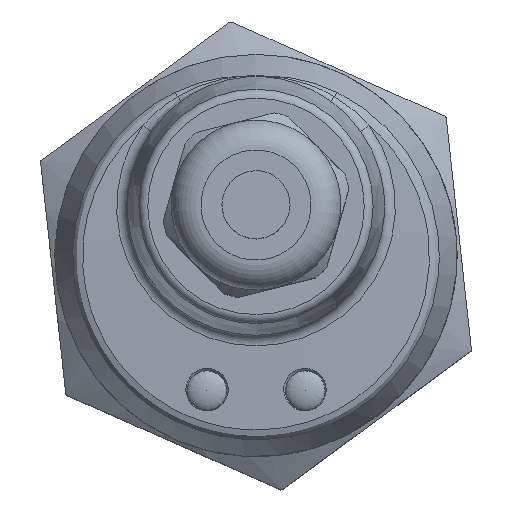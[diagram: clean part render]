
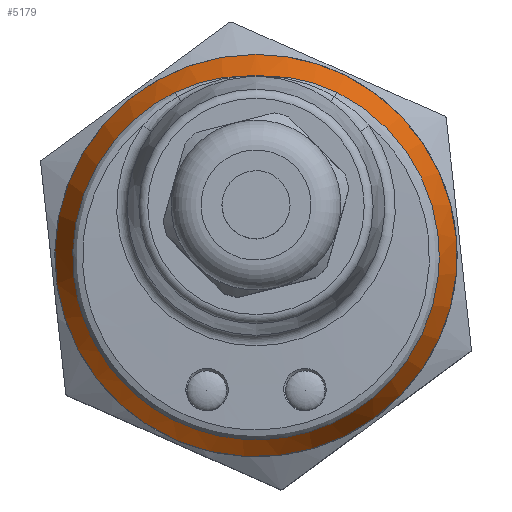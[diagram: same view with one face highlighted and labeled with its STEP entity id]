
A CAD part, top view. The second image highlights one B-rep face of the part: STEP entity #5179.
In plain terms, the highlighted conical face has half-angle 23 degrees and reference radius 15.817 mm.
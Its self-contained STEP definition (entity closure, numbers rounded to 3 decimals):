
#430=B_SPLINE_CURVE_WITH_KNOTS('',3,(#7864,#7865,#7866,#7867,#7868,#7869,
#7870,#7871,#7872,#7873,#7874),.UNSPECIFIED.,.F.,.F.,(4,1,1,1,1,1,1,1,4),
(0.,0.25,0.375,0.438,0.5,0.563,0.625,0.75,1.),.UNSPECIFIED.);
#431=B_SPLINE_CURVE_WITH_KNOTS('',3,(#7877,#7878,#7879,#7880),
 .UNSPECIFIED.,.F.,.F.,(4,4),(0.,1.),.UNSPECIFIED.);
#432=B_SPLINE_CURVE_WITH_KNOTS('',3,(#7882,#7883,#7884,#7885,#7886,#7887,
#7888,#7889,#7890,#7891,#7892),.UNSPECIFIED.,.F.,.F.,(4,1,1,1,1,1,1,1,4),
(0.,0.25,0.375,0.438,0.5,0.563,0.625,0.75,1.),.UNSPECIFIED.);
#433=B_SPLINE_CURVE_WITH_KNOTS('',3,(#7894,#7895,#7896,#7897,#7898,#7899,
#7900,#7901,#7902,#7903,#7904,#7905,#7906,#7907,#7908,#7909,#7910,#7911,
#7912,#7913,#7914,#7915,#7916,#7917,#7918,#7919,#7920,#7921,#7922,#7923,
#7924,#7925,#7926,#7927,#7928,#7929,#7930,#7931,#7932,#7933,#7934,#7935,
#7936,#7937,#7938,#7939,#7940,#7941,#7942,#7943,#7944,#7945,#7946,#7947,
#7948,#7949,#7950,#7951,#7952,#7953,#7954,#7955,#7956,#7957,#7958,#7959,
#7960,#7961,#7962,#7963,#7964,#7965,#7966,#7967,#7968),.UNSPECIFIED.,.F.,
 .F.,(4,1,1,1,1,1,1,1,1,1,1,1,1,1,1,1,1,1,1,1,1,1,1,1,1,1,1,1,1,1,1,1,1,
1,1,1,1,1,1,1,1,1,1,1,1,1,1,1,1,1,1,1,1,1,1,1,1,1,1,1,1,1,1,1,1,1,1,1,1,
1,1,1,4),(0.,0.031,0.063,0.078,0.094,0.102,0.109,0.117,
0.121,0.123,0.125,0.127,0.129,0.133,0.137,
0.141,0.148,0.156,0.172,0.188,0.203,0.219,0.227,0.234,
0.238,0.242,0.246,0.248,0.25,0.251,0.252,
0.254,0.258,0.262,0.266,0.273,0.281,0.297,0.313,
0.328,0.344,0.375,0.406,0.438,0.469,0.484,0.492,0.5,0.508,
0.516,0.531,0.563,0.625,0.656,0.688,0.719,0.734,0.742,
0.75,0.758,0.766,0.781,0.797,0.813,0.844,0.859,0.875,
0.883,0.891,0.906,0.938,0.969,1.),.UNSPECIFIED.);
#1109=ORIENTED_EDGE('',*,*,#1817,.T.);
#1110=ORIENTED_EDGE('',*,*,#1818,.T.);
#1111=ORIENTED_EDGE('',*,*,#1819,.F.);
#1112=ORIENTED_EDGE('',*,*,#1820,.T.);
#1113=ORIENTED_EDGE('',*,*,#1821,.T.);
#1817=EDGE_CURVE('',#2213,#2214,#430,.T.);
#1818=EDGE_CURVE('',#2214,#2215,#431,.T.);
#1819=EDGE_CURVE('',#2216,#2215,#432,.F.);
#1820=EDGE_CURVE('',#2216,#2213,#433,.T.);
#1821=EDGE_CURVE('',#2217,#2217,#2490,.T.);
#2213=VERTEX_POINT('',#7875);
#2214=VERTEX_POINT('',#7876);
#2215=VERTEX_POINT('',#7881);
#2216=VERTEX_POINT('',#7893);
#2217=VERTEX_POINT('',#7970);
#2490=CIRCLE('',#5524,17.75);
#2756=EDGE_LOOP('',(#1109,#1110,#1111,#1112));
#2757=EDGE_LOOP('',(#1113));
#3106=FACE_BOUND('',#2756,.T.);
#3107=FACE_BOUND('',#2757,.T.);
#3350=CONICAL_SURFACE('',#5523,15.817,0.401);
#5179=ADVANCED_FACE('',(#3106,#3107),#3350,.T.);
#5523=AXIS2_PLACEMENT_3D('',#7863,#6273,#6274);
#5524=AXIS2_PLACEMENT_3D('',#7969,#6275,#6276);
#6273=DIRECTION('',(0.,0.,-1.));
#6274=DIRECTION('',(0.,-1.,0.));
#6275=DIRECTION('',(0.,0.,1.));
#6276=DIRECTION('',(0.,1.,0.));
#7863=CARTESIAN_POINT('',(0.,0.,32.341));
#7864=CARTESIAN_POINT('',(-7.136,14.404,31.733));
#7865=CARTESIAN_POINT('',(-6.659,14.638,31.737));
#7866=CARTESIAN_POINT('',(-5.905,14.957,31.76));
#7867=CARTESIAN_POINT('',(-4.952,15.26,31.817));
#7868=CARTESIAN_POINT('',(-4.399,15.409,31.856));
#7869=CARTESIAN_POINT('',(-3.95,15.514,31.892));
#7870=CARTESIAN_POINT('',(-3.593,15.587,31.924));
#7871=CARTESIAN_POINT('',(-3.066,15.68,31.973));
#7872=CARTESIAN_POINT('',(-2.123,15.806,32.07));
#7873=CARTESIAN_POINT('',(-1.246,15.85,32.176));
#7874=CARTESIAN_POINT('',(-0.639,15.84,32.255));
#7875=CARTESIAN_POINT('',(-7.136,14.404,31.733));
#7876=CARTESIAN_POINT('',(-0.639,15.84,32.255));
#7877=CARTESIAN_POINT('',(-0.639,15.84,32.255));
#7878=CARTESIAN_POINT('',(-0.214,15.868,32.23));
#7879=CARTESIAN_POINT('',(0.214,15.868,32.23));
#7880=CARTESIAN_POINT('',(0.639,15.84,32.255));
#7881=CARTESIAN_POINT('',(0.639,15.84,32.255));
#7882=CARTESIAN_POINT('',(0.639,15.84,32.255));
#7883=CARTESIAN_POINT('',(1.246,15.85,32.176));
#7884=CARTESIAN_POINT('',(2.123,15.806,32.07));
#7885=CARTESIAN_POINT('',(3.066,15.68,31.973));
#7886=CARTESIAN_POINT('',(3.593,15.587,31.924));
#7887=CARTESIAN_POINT('',(3.95,15.514,31.892));
#7888=CARTESIAN_POINT('',(4.399,15.409,31.856));
#7889=CARTESIAN_POINT('',(4.952,15.26,31.817));
#7890=CARTESIAN_POINT('',(5.905,14.957,31.76));
#7891=CARTESIAN_POINT('',(6.659,14.638,31.737));
#7892=CARTESIAN_POINT('',(7.136,14.404,31.733));
#7893=CARTESIAN_POINT('',(7.136,14.404,31.733));
#7894=CARTESIAN_POINT('',(7.136,14.404,31.733));
#7895=CARTESIAN_POINT('',(7.686,14.134,31.728));
#7896=CARTESIAN_POINT('',(8.887,13.468,31.715));
#7897=CARTESIAN_POINT('',(10.548,12.213,31.691));
#7898=CARTESIAN_POINT('',(11.888,10.894,31.668));
#7899=CARTESIAN_POINT('',(12.706,9.928,31.651));
#7900=CARTESIAN_POINT('',(13.333,9.065,31.637));
#7901=CARTESIAN_POINT('',(13.784,8.373,31.626));
#7902=CARTESIAN_POINT('',(14.143,7.753,31.617));
#7903=CARTESIAN_POINT('',(14.378,7.309,31.61));
#7904=CARTESIAN_POINT('',(14.515,7.033,31.605));
#7905=CARTESIAN_POINT('',(14.596,6.869,31.603));
#7906=CARTESIAN_POINT('',(14.754,6.529,31.598));
#7907=CARTESIAN_POINT('',(14.923,6.14,31.592));
#7908=CARTESIAN_POINT('',(15.126,5.638,31.584));
#7909=CARTESIAN_POINT('',(15.334,5.055,31.576));
#7910=CARTESIAN_POINT('',(15.574,4.292,31.565));
#7911=CARTESIAN_POINT('',(15.808,3.374,31.551));
#7912=CARTESIAN_POINT('',(16.063,1.99,31.532));
#7913=CARTESIAN_POINT('',(16.193,0.445,31.51));
#7914=CARTESIAN_POINT('',(16.161,-1.081,31.489));
#7915=CARTESIAN_POINT('',(16.037,-2.266,31.473));
#7916=CARTESIAN_POINT('',(15.918,-2.969,31.463));
#7917=CARTESIAN_POINT('',(15.839,-3.364,31.458));
#7918=CARTESIAN_POINT('',(15.801,-3.542,31.455));
#7919=CARTESIAN_POINT('',(15.779,-3.642,31.454));
#7920=CARTESIAN_POINT('',(15.765,-3.702,31.453));
#7921=CARTESIAN_POINT('',(15.762,-3.717,31.453));
#7922=CARTESIAN_POINT('',(15.752,-3.759,31.452));
#7923=CARTESIAN_POINT('',(15.768,-3.688,31.453));
#7924=CARTESIAN_POINT('',(15.732,-3.843,31.451));
#7925=CARTESIAN_POINT('',(15.704,-3.96,31.449));
#7926=CARTESIAN_POINT('',(15.648,-4.183,31.447));
#7927=CARTESIAN_POINT('',(15.565,-4.489,31.443));
#7928=CARTESIAN_POINT('',(15.457,-4.856,31.438));
#7929=CARTESIAN_POINT('',(15.301,-5.339,31.432));
#7930=CARTESIAN_POINT('',(15.087,-5.932,31.425));
#7931=CARTESIAN_POINT('',(14.703,-6.858,31.414));
#7932=CARTESIAN_POINT('',(14.15,-7.966,31.4));
#7933=CARTESIAN_POINT('',(13.38,-9.211,31.386));
#7934=CARTESIAN_POINT('',(12.516,-10.363,31.372));
#7935=CARTESIAN_POINT('',(11.253,-11.768,31.355));
#7936=CARTESIAN_POINT('',(9.499,-13.269,31.338));
#7937=CARTESIAN_POINT('',(7.204,-14.644,31.322));
#7938=CARTESIAN_POINT('',(4.807,-15.596,31.31));
#7939=CARTESIAN_POINT('',(2.784,-16.052,31.305));
#7940=CARTESIAN_POINT('',(1.393,-16.206,31.303));
#7941=CARTESIAN_POINT('',(0.596,-16.25,31.303));
#7942=CARTESIAN_POINT('',(0.036,-16.261,31.303));
#7943=CARTESIAN_POINT('',(-0.645,-16.249,31.303));
#7944=CARTESIAN_POINT('',(-1.51,-16.197,31.304));
#7945=CARTESIAN_POINT('',(-3.043,-16.012,31.306));
#7946=CARTESIAN_POINT('',(-6.054,-15.265,31.315));
#7947=CARTESIAN_POINT('',(-9.266,-13.558,31.334));
#7948=CARTESIAN_POINT('',(-11.954,-11.095,31.362));
#7949=CARTESIAN_POINT('',(-13.645,-8.915,31.387));
#7950=CARTESIAN_POINT('',(-14.734,-6.874,31.412));
#7951=CARTESIAN_POINT('',(-15.308,-5.343,31.431));
#7952=CARTESIAN_POINT('',(-15.577,-4.463,31.443));
#7953=CARTESIAN_POINT('',(-15.759,-3.75,31.452));
#7954=CARTESIAN_POINT('',(-15.877,-3.192,31.46));
#7955=CARTESIAN_POINT('',(-16.021,-2.373,31.47));
#7956=CARTESIAN_POINT('',(-16.142,-1.335,31.484));
#7957=CARTESIAN_POINT('',(-16.191,-0.035,31.502));
#7958=CARTESIAN_POINT('',(-16.112,1.747,31.527));
#7959=CARTESIAN_POINT('',(-15.801,3.583,31.553));
#7960=CARTESIAN_POINT('',(-15.216,5.444,31.58));
#7961=CARTESIAN_POINT('',(-14.753,6.563,31.598));
#7962=CARTESIAN_POINT('',(-14.268,7.529,31.614));
#7963=CARTESIAN_POINT('',(-13.756,8.429,31.628));
#7964=CARTESIAN_POINT('',(-12.774,9.903,31.652));
#7965=CARTESIAN_POINT('',(-11.192,11.674,31.683));
#7966=CARTESIAN_POINT('',(-9.16,13.297,31.712));
#7967=CARTESIAN_POINT('',(-7.801,14.078,31.727));
#7968=CARTESIAN_POINT('',(-7.136,14.404,31.733));
#7969=CARTESIAN_POINT('',(0.,0.,27.787));
#7970=CARTESIAN_POINT('',(0.,17.75,27.787));
